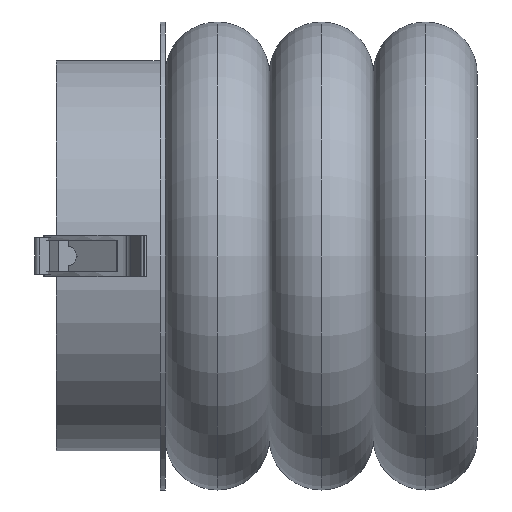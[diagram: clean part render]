
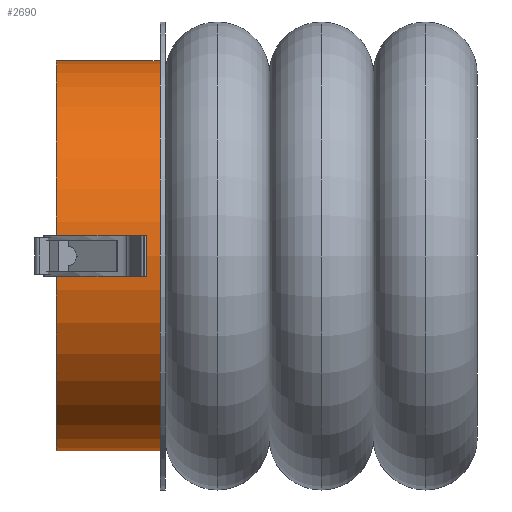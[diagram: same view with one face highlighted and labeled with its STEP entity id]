
A CAD part, left-side view. The second image highlights one B-rep face of the part: STEP entity #2690.
In plain terms, the highlighted cylindrical face has radius 37.5 mm (diameter 75 mm), a partial arc.
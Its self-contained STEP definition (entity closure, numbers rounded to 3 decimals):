
#128 = VECTOR ( 'NONE', #584, 1000. ) ;
#163 = VERTEX_POINT ( 'NONE', #223 ) ;
#223 = CARTESIAN_POINT ( 'NONE',  ( 0., 21., -37.5 ) ) ;
#235 = DIRECTION ( 'NONE',  ( 0., 0., 1. ) ) ;
#249 = CARTESIAN_POINT ( 'NONE',  ( 0., 1., 0. ) ) ;
#274 = ORIENTED_EDGE ( 'NONE', *, *, #3108, .T. ) ;
#378 = VERTEX_POINT ( 'NONE', #2395 ) ;
#410 = DIRECTION ( 'NONE',  ( 0., 0., -1. ) ) ;
#481 = LINE ( 'NONE', #1165, #2423 ) ;
#584 = DIRECTION ( 'NONE',  ( 0., -1., 0. ) ) ;
#616 = LINE ( 'NONE', #2616, #128 ) ;
#821 = CARTESIAN_POINT ( 'NONE',  ( 0., 1., 37.5 ) ) ;
#898 = CARTESIAN_POINT ( 'NONE',  ( 0., 21., 0. ) ) ;
#1165 = CARTESIAN_POINT ( 'NONE',  ( 0., 21., 37.5 ) ) ;
#1302 = ORIENTED_EDGE ( 'NONE', *, *, #2806, .F. ) ;
#1456 = VERTEX_POINT ( 'NONE', #1810 ) ;
#1471 = DIRECTION ( 'NONE',  ( 0., -1., 0. ) ) ;
#1481 = VERTEX_POINT ( 'NONE', #821 ) ;
#1500 = AXIS2_PLACEMENT_3D ( 'NONE', #249, #1695, #235 ) ;
#1602 = EDGE_CURVE ( 'NONE', #378, #1481, #481, .T. ) ;
#1695 = DIRECTION ( 'NONE',  ( 0., 1., 0. ) ) ;
#1771 = EDGE_CURVE ( 'NONE', #163, #1456, #616, .T. ) ;
#1779 = CIRCLE ( 'NONE', #1892, 37.5 ) ;
#1810 = CARTESIAN_POINT ( 'NONE',  ( 0., 1., -37.5 ) ) ;
#1892 = AXIS2_PLACEMENT_3D ( 'NONE', #1984, #3176, #2186 ) ;
#1899 = CYLINDRICAL_SURFACE ( 'NONE', #3190, 37.5 ) ;
#1984 = CARTESIAN_POINT ( 'NONE',  ( 0., 21., 0. ) ) ;
#2136 = FACE_OUTER_BOUND ( 'NONE', #2655, .T. ) ;
#2186 = DIRECTION ( 'NONE',  ( 0., 0., 1. ) ) ;
#2282 = ORIENTED_EDGE ( 'NONE', *, *, #1602, .F. ) ;
#2365 = ORIENTED_EDGE ( 'NONE', *, *, #1771, .T. ) ;
#2395 = CARTESIAN_POINT ( 'NONE',  ( 0., 21., 37.5 ) ) ;
#2423 = VECTOR ( 'NONE', #1471, 1000. ) ;
#2616 = CARTESIAN_POINT ( 'NONE',  ( 0., 21., -37.5 ) ) ;
#2650 = DIRECTION ( 'NONE',  ( 0., -1., 0. ) ) ;
#2655 = EDGE_LOOP ( 'NONE', ( #2282, #1302, #2365, #274 ) ) ;
#2690 = ADVANCED_FACE ( 'NONE', ( #2136 ), #1899, .T. ) ;
#2806 = EDGE_CURVE ( 'NONE', #163, #378, #1779, .T. ) ;
#2954 = CIRCLE ( 'NONE', #1500, 37.5 ) ;
#3108 = EDGE_CURVE ( 'NONE', #1456, #1481, #2954, .T. ) ;
#3176 = DIRECTION ( 'NONE',  ( 0., 1., 0. ) ) ;
#3190 = AXIS2_PLACEMENT_3D ( 'NONE', #898, #2650, #410 ) ;
